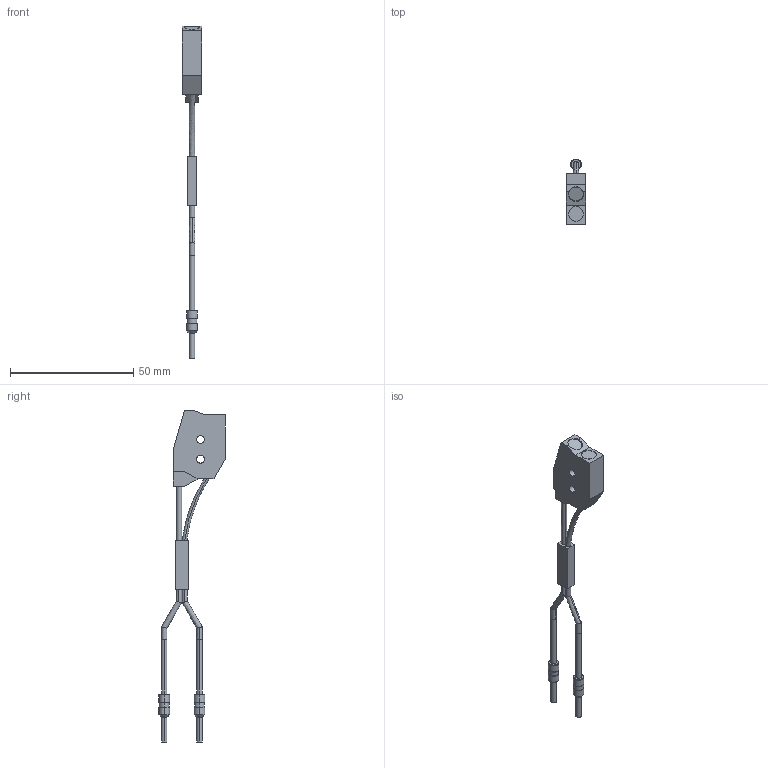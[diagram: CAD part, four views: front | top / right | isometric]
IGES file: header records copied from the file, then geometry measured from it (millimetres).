
Start section: SolidWorks IGES FILE using analytic representation for surfaces
Global section: file name: \\Intra-srv04\開発データ\CAD_Data\CAD委員会\3D電子ｶﾀﾛｸﾞ\製品カタログ（新）\0_IGES\FD-L51.IGS,41HSolidWorks 2004; native system: by SolidWorks Corporation; preprocessor: Version 5.3; author: yk0651; date: 050905.103544; units: millimetre
Bounding box: 8 x 26.91 x 134.9 mm (x, y, z)
Volume: 5269.4 mm3; surface area: 3710.5 mm2
Topology: 3 solids, 3 shells, 90 faces, 203 edges, 130 vertices
Faces by surface type: revolution 50, plane 38, bspline 2
